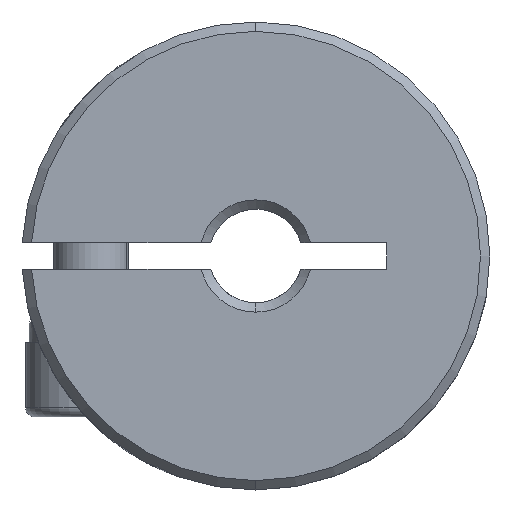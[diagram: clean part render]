
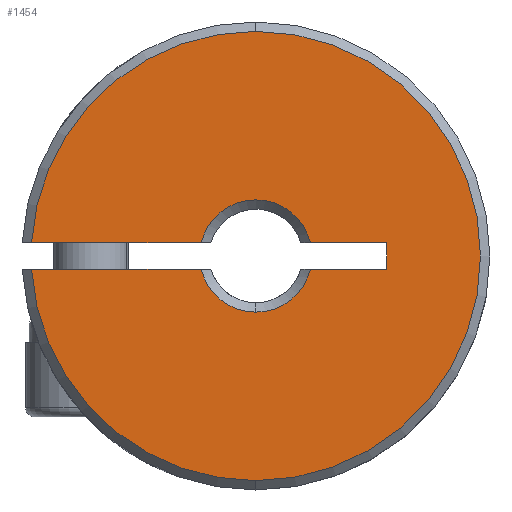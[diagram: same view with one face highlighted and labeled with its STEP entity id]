
A CAD part, front view. The second image highlights one B-rep face of the part: STEP entity #1454.
In plain terms, the highlighted planar face has unit normal (0, -1, 0).
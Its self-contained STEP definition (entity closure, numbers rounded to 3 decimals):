
#15 = ORIENTED_EDGE ( 'NONE', *, *, #3441, .T. ) ;
#47 = EDGE_CURVE ( 'NONE', #3931, #5652, #1622, .T. ) ;
#55 = VECTOR ( 'NONE', #942, 1000. ) ;
#153 = DIRECTION ( 'NONE',  ( -1., 0., 0. ) ) ;
#156 = AXIS2_PLACEMENT_3D ( 'NONE', #3896, #978, #4865 ) ;
#179 = EDGE_LOOP ( 'NONE', ( #6006, #3457, #15, #5077, #5188, #4054, #1347, #2358, #5319, #1215, #5415 ) ) ;
#180 = CARTESIAN_POINT ( 'NONE',  ( -12.75, 0.25, -0.7 ) ) ;
#293 = LINE ( 'NONE', #3883, #1120 ) ;
#414 = VERTEX_POINT ( 'NONE', #5060 ) ;
#460 = AXIS2_PLACEMENT_3D ( 'NONE', #3941, #5903, #3523 ) ;
#480 = PLANE ( 'NONE',  #156 ) ;
#618 = CARTESIAN_POINT ( 'NONE',  ( 7., 0.25, 0.7 ) ) ;
#880 = VECTOR ( 'NONE', #4594, 1000. ) ;
#922 = CARTESIAN_POINT ( 'NONE',  ( -11.98, 0.25, 0.7 ) ) ;
#942 = DIRECTION ( 'NONE',  ( -1., 0., 0. ) ) ;
#978 = DIRECTION ( 'NONE',  ( 0., 1., 0. ) ) ;
#979 = VECTOR ( 'NONE', #3560, 1000. ) ;
#1120 = VECTOR ( 'NONE', #4853, 1000. ) ;
#1183 = VECTOR ( 'NONE', #153, 1000. ) ;
#1215 = ORIENTED_EDGE ( 'NONE', *, *, #4574, .F. ) ;
#1261 = LINE ( 'NONE', #180, #880 ) ;
#1288 = CARTESIAN_POINT ( 'NONE',  ( 0., 0.25, -3. ) ) ;
#1347 = ORIENTED_EDGE ( 'NONE', *, *, #1822, .T. ) ;
#1379 = DIRECTION ( 'NONE',  ( 0., 0., 1. ) ) ;
#1454 = ADVANCED_FACE ( 'NONE', ( #4277 ), #480, .F. ) ;
#1576 = CARTESIAN_POINT ( 'NONE',  ( -11.98, 0.25, -0.7 ) ) ;
#1601 = DIRECTION ( 'NONE',  ( 0., 1., 0. ) ) ;
#1622 = CIRCLE ( 'NONE', #4016, 3. ) ;
#1662 = AXIS2_PLACEMENT_3D ( 'NONE', #5996, #6019, #4950 ) ;
#1682 = EDGE_CURVE ( 'NONE', #5309, #414, #4536, .T. ) ;
#1811 = CARTESIAN_POINT ( 'NONE',  ( 7., 0.25, -0.7 ) ) ;
#1822 = EDGE_CURVE ( 'NONE', #6074, #4882, #3404, .T. ) ;
#1950 = CARTESIAN_POINT ( 'NONE',  ( -12.75, 0.25, 0.7 ) ) ;
#2064 = CARTESIAN_POINT ( 'NONE',  ( 0., 0.25, 0. ) ) ;
#2256 = CIRCLE ( 'NONE', #460, 12. ) ;
#2358 = ORIENTED_EDGE ( 'NONE', *, *, #4783, .F. ) ;
#2402 = DIRECTION ( 'NONE',  ( 0., 1., 0. ) ) ;
#2697 = CIRCLE ( 'NONE', #1662, 12. ) ;
#2949 = DIRECTION ( 'NONE',  ( 0., 1., 0. ) ) ;
#3171 = DIRECTION ( 'NONE',  ( 0., 0., 1. ) ) ;
#3397 = CIRCLE ( 'NONE', #4404, 3. ) ;
#3404 = CIRCLE ( 'NONE', #5258, 12. ) ;
#3441 = EDGE_CURVE ( 'NONE', #5652, #5237, #3644, .T. ) ;
#3457 = ORIENTED_EDGE ( 'NONE', *, *, #47, .T. ) ;
#3459 = EDGE_CURVE ( 'NONE', #6099, #5237, #293, .T. ) ;
#3523 = DIRECTION ( 'NONE',  ( 0., 0., 1. ) ) ;
#3560 = DIRECTION ( 'NONE',  ( 0., 0., 1. ) ) ;
#3644 = CIRCLE ( 'NONE', #5664, 3. ) ;
#3733 = CARTESIAN_POINT ( 'NONE',  ( 0., 0.25, -12. ) ) ;
#3883 = CARTESIAN_POINT ( 'NONE',  ( -12.75, 0.25, -0.7 ) ) ;
#3896 = CARTESIAN_POINT ( 'NONE',  ( -500., 0.25, -13.609 ) ) ;
#3931 = VERTEX_POINT ( 'NONE', #5362 ) ;
#3941 = CARTESIAN_POINT ( 'NONE',  ( 0., 0.25, 0. ) ) ;
#4005 = LINE ( 'NONE', #1950, #55 ) ;
#4006 = EDGE_CURVE ( 'NONE', #4892, #6148, #3397, .T. ) ;
#4016 = AXIS2_PLACEMENT_3D ( 'NONE', #2064, #1601, #6010 ) ;
#4054 = ORIENTED_EDGE ( 'NONE', *, *, #5976, .T. ) ;
#4277 = FACE_OUTER_BOUND ( 'NONE', #179, .T. ) ;
#4389 = VERTEX_POINT ( 'NONE', #3733 ) ;
#4404 = AXIS2_PLACEMENT_3D ( 'NONE', #5883, #2949, #4455 ) ;
#4455 = DIRECTION ( 'NONE',  ( 0., 0., 1. ) ) ;
#4536 = LINE ( 'NONE', #618, #979 ) ;
#4574 = EDGE_CURVE ( 'NONE', #414, #6148, #4005, .T. ) ;
#4594 = DIRECTION ( 'NONE',  ( 1., 0., 0. ) ) ;
#4650 = EDGE_CURVE ( 'NONE', #6099, #4389, #2256, .T. ) ;
#4659 = CARTESIAN_POINT ( 'NONE',  ( 0., 0.25, 0. ) ) ;
#4783 = EDGE_CURVE ( 'NONE', #4892, #4882, #6236, .T. ) ;
#4853 = DIRECTION ( 'NONE',  ( 1., 0., 0. ) ) ;
#4865 = DIRECTION ( 'NONE',  ( 0., 0., 1. ) ) ;
#4882 = VERTEX_POINT ( 'NONE', #922 ) ;
#4892 = VERTEX_POINT ( 'NONE', #6102 ) ;
#4950 = DIRECTION ( 'NONE',  ( 0., 0., 1. ) ) ;
#5060 = CARTESIAN_POINT ( 'NONE',  ( 7., 0.25, 0.7 ) ) ;
#5077 = ORIENTED_EDGE ( 'NONE', *, *, #3459, .F. ) ;
#5098 = CARTESIAN_POINT ( 'NONE',  ( -2.917, 0.25, -0.7 ) ) ;
#5188 = ORIENTED_EDGE ( 'NONE', *, *, #4650, .T. ) ;
#5237 = VERTEX_POINT ( 'NONE', #5098 ) ;
#5258 = AXIS2_PLACEMENT_3D ( 'NONE', #4659, #5602, #3171 ) ;
#5309 = VERTEX_POINT ( 'NONE', #1811 ) ;
#5319 = ORIENTED_EDGE ( 'NONE', *, *, #4006, .T. ) ;
#5328 = CARTESIAN_POINT ( 'NONE',  ( 0., 0.25, 0. ) ) ;
#5362 = CARTESIAN_POINT ( 'NONE',  ( 2.917, 0.25, -0.7 ) ) ;
#5415 = ORIENTED_EDGE ( 'NONE', *, *, #1682, .F. ) ;
#5443 = CARTESIAN_POINT ( 'NONE',  ( 0., 0.25, 12. ) ) ;
#5463 = EDGE_CURVE ( 'NONE', #3931, #5309, #1261, .T. ) ;
#5602 = DIRECTION ( 'NONE',  ( 0., -1., 0. ) ) ;
#5652 = VERTEX_POINT ( 'NONE', #1288 ) ;
#5664 = AXIS2_PLACEMENT_3D ( 'NONE', #5328, #2402, #1379 ) ;
#5883 = CARTESIAN_POINT ( 'NONE',  ( 0., 0.25, 0. ) ) ;
#5903 = DIRECTION ( 'NONE',  ( 0., -1., 0. ) ) ;
#5976 = EDGE_CURVE ( 'NONE', #4389, #6074, #2697, .T. ) ;
#5996 = CARTESIAN_POINT ( 'NONE',  ( 0., 0.25, 0. ) ) ;
#6006 = ORIENTED_EDGE ( 'NONE', *, *, #5463, .F. ) ;
#6010 = DIRECTION ( 'NONE',  ( 0., 0., 1. ) ) ;
#6019 = DIRECTION ( 'NONE',  ( 0., -1., 0. ) ) ;
#6030 = CARTESIAN_POINT ( 'NONE',  ( -12.75, 0.25, 0.7 ) ) ;
#6056 = CARTESIAN_POINT ( 'NONE',  ( 2.917, 0.25, 0.7 ) ) ;
#6074 = VERTEX_POINT ( 'NONE', #5443 ) ;
#6099 = VERTEX_POINT ( 'NONE', #1576 ) ;
#6102 = CARTESIAN_POINT ( 'NONE',  ( -2.917, 0.25, 0.7 ) ) ;
#6148 = VERTEX_POINT ( 'NONE', #6056 ) ;
#6236 = LINE ( 'NONE', #6030, #1183 ) ;
